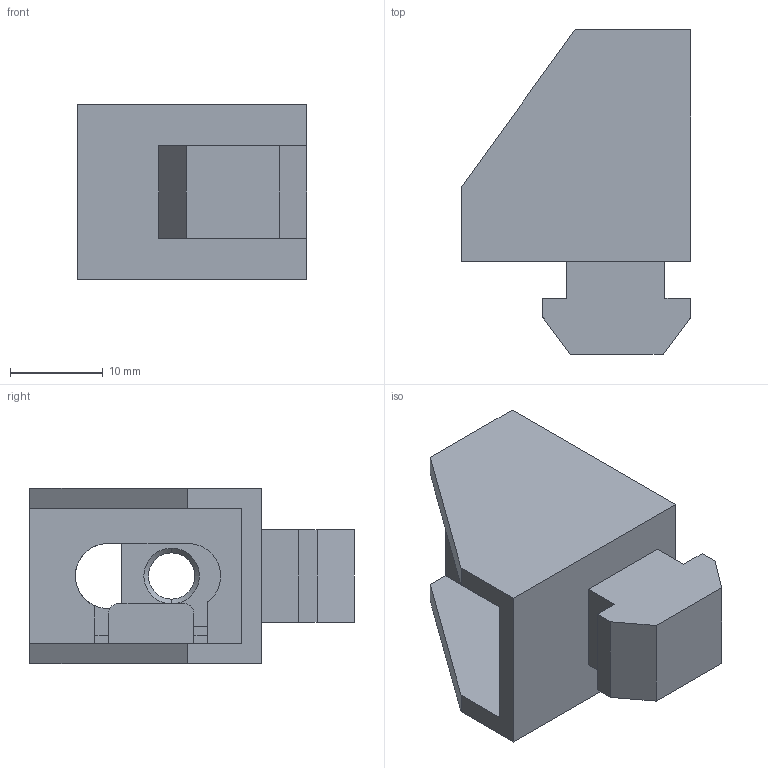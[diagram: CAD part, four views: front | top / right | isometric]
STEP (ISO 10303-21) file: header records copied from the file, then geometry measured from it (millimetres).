
FILE_DESCRIPTION (( 'STEP AP214' ), '1' );
FILE_NAME ('SNSD.30.51.96. Êëèïñà âèíòîâàÿ äëÿ ïàíåëåé 45, ðåçüáà Ì6, ïàç 10(D57).STEP', '2015-01-16T11:06:31', ( 'XTreme.ws' ), ( 'XTreme.ws' ), 'SwSTEP 2.0', 'SolidWorks 2014', '' );
FILE_SCHEMA (( 'AUTOMOTIVE_DESIGN' ));
Length unit declared in the file: millimetre
Products named in the file (5): SNSD.30.51.91. Ãàéêà Ì6, (A13)A14D57_00; SNSD.30.51.91. Ãàéêà Ì6, (A13)A14D57; SNSD.30.51.96. Êëèïñà âèíòîâàÿ äëÿ ïàíåëåé 45, ðåçüáà Ì6, ïàç 10(D57); SNSD.30.51.91. Êëèïñà âèíòîâàÿ äëÿ ïàíåëåé 30, ðåçüáà Ì6, ïàç 8(A13)A14D57_21`; SNSD.30.51.91. Êëèïñà âèíòîâàÿ äëÿ ïàíåëåé 30, ðåçüáà Ì6, ïàç 8(A13)A14D57
Assembly tree (2 placements, depth 2):
  SNSD.30.51.91. Ãàéêà Ì6, (A13)A14D57
  SNSD.30.51.96. Êëèïñà âèíòîâàÿ äëÿ ïàíåëåé 45, ðåçüáà Ì6, ïàç 10(D57)
    SNSD.30.51.91. Êëèïñà âèíòîâàÿ äëÿ ïàíåëåé 30, ðåçüáà Ì6, ïàç 8(A13)A14D57_21`
    SNSD.30.51.91. Ãàéêà Ì6, (A13)A14D57_00
  SNSD.30.51.91. Êëèïñà âèíòîâàÿ äëÿ ïàíåëåé 30, ðåçüáà Ì6, ïàç 8(A13)A14D57
Bounding box: 24.8 x 35 x 19 mm (x, y, z)
Volume: 6121.8 mm3; surface area: 4875.5 mm2
Topology: 2 solids, 2 shells, 70 faces, 190 edges, 124 vertices
Faces by surface type: plane 46, cylinder 12, cone 12
Entity records: 2452 total; most frequent: CARTESIAN_POINT 542, ORIENTED_EDGE 380, DIRECTION 346, EDGE_CURVE 190, VECTOR 138, LINE 138, VERTEX_POINT 124, AXIS2_PLACEMENT_3D 104
